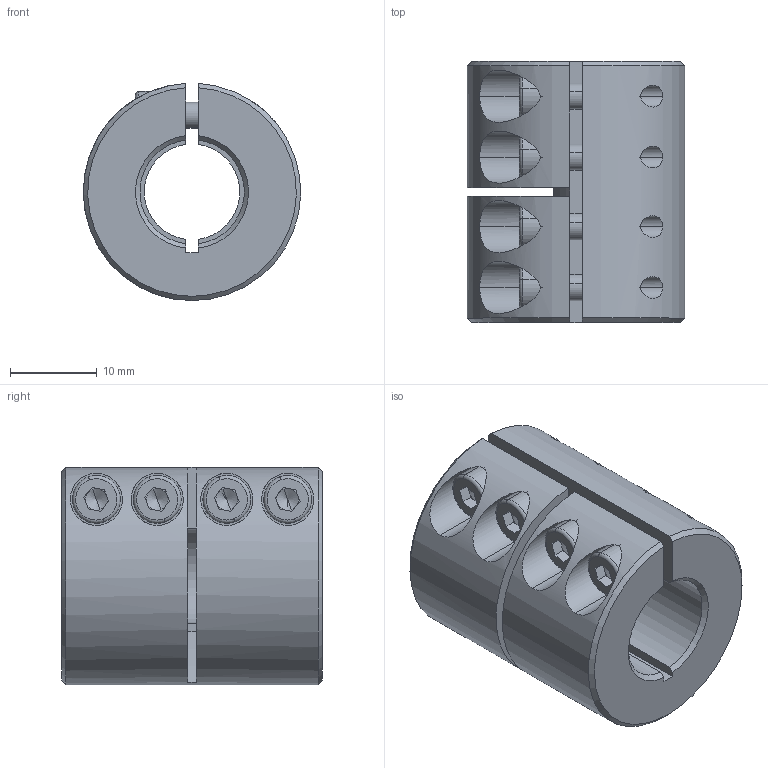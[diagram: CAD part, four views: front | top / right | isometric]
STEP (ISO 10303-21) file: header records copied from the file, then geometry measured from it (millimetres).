
FILE_DESCRIPTION (( 'STEP AP214' ), '1' );
FILE_NAME ('LL-B-D25L30-11-12½¨Ä£.STEP', '2022-07-21T03:20:47', ( '' ), ( '' ), 'SwSTEP 2.0', 'SolidWorks 2022', '' );
FILE_SCHEMA (( 'AUTOMOTIVE_DESIGN' ));
Length unit declared in the file: millimetre
Products named in the file (1): LL-B-D25L30-11-12膘耀
Bounding box: 24.99 x 30 x 24.98 mm (x, y, z)
Volume: 10641.8 mm3; surface area: 5879.7 mm2
Topology: 1 solids, 1 shells, 164 faces, 418 edges, 264 vertices
Faces by surface type: plane 83, cylinder 58, cone 15, torus 8
Entity records: 5402 total; most frequent: CARTESIAN_POINT 1363, DIRECTION 862, ORIENTED_EDGE 820, EDGE_CURVE 410, AXIS2_PLACEMENT_3D 331, VERTEX_POINT 264, VECTOR 200, LINE 200
